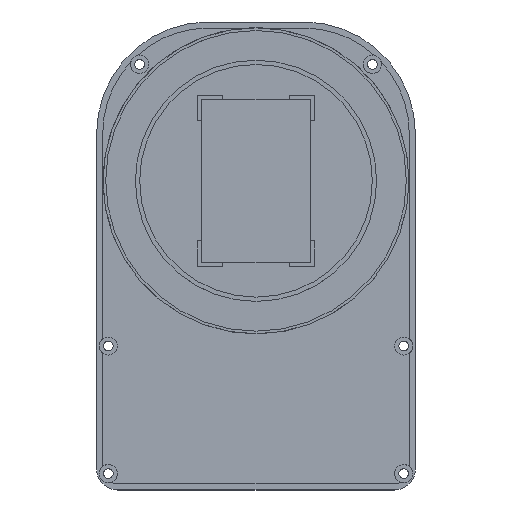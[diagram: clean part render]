
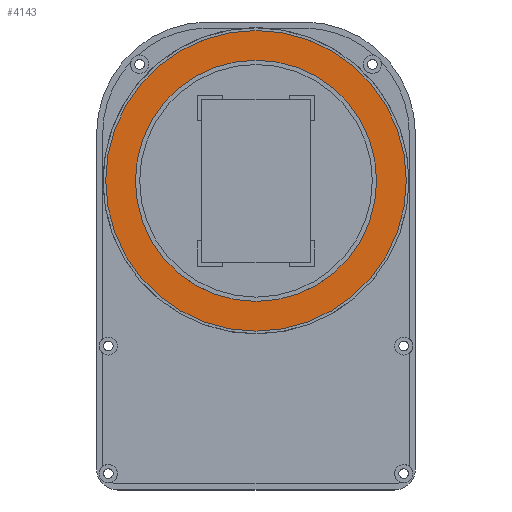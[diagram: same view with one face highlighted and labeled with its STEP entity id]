
A CAD part, top view. The second image highlights one B-rep face of the part: STEP entity #4143.
In plain terms, the highlighted planar face has unit normal (0, 0, 1).
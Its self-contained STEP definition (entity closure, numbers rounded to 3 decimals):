
#3735 = CYLINDRICAL_SURFACE('',#3736,28.3);
#3736 = AXIS2_PLACEMENT_3D('',#3737,#3738,#3739);
#3737 = CARTESIAN_POINT('',(0.,14.15,0.5));
#3738 = DIRECTION('',(0.,0.,1.));
#3739 = DIRECTION('',(1.,0.,-0.));
#4094 = VERTEX_POINT('',#4095);
#4095 = CARTESIAN_POINT('',(28.3,14.15,0.5));
#4116 = EDGE_CURVE('',#4094,#4094,#4117,.T.);
#4117 = SURFACE_CURVE('',#4118,(#4123,#4130),.PCURVE_S1.);
#4118 = CIRCLE('',#4119,28.3);
#4119 = AXIS2_PLACEMENT_3D('',#4120,#4121,#4122);
#4120 = CARTESIAN_POINT('',(0.,14.15,0.5));
#4121 = DIRECTION('',(0.,0.,1.));
#4122 = DIRECTION('',(1.,0.,-0.));
#4123 = PCURVE('',#3735,#4124);
#4124 = DEFINITIONAL_REPRESENTATION('',(#4125),#4129);
#4125 = LINE('',#4126,#4127);
#4126 = CARTESIAN_POINT('',(0.,0.));
#4127 = VECTOR('',#4128,1.);
#4128 = DIRECTION('',(1.,0.));
#4129 = ( GEOMETRIC_REPRESENTATION_CONTEXT(2) 
PARAMETRIC_REPRESENTATION_CONTEXT() REPRESENTATION_CONTEXT('2D SPACE',''
  ) );
#4130 = PCURVE('',#4131,#4136);
#4131 = PLANE('',#4132);
#4132 = AXIS2_PLACEMENT_3D('',#4133,#4134,#4135);
#4133 = CARTESIAN_POINT('',(0.,14.15,0.5));
#4134 = DIRECTION('',(0.,0.,1.));
#4135 = DIRECTION('',(1.,0.,-0.));
#4136 = DEFINITIONAL_REPRESENTATION('',(#4137),#4141);
#4137 = CIRCLE('',#4138,28.3);
#4138 = AXIS2_PLACEMENT_2D('',#4139,#4140);
#4139 = CARTESIAN_POINT('',(0.,0.));
#4140 = DIRECTION('',(1.,0.));
#4141 = ( GEOMETRIC_REPRESENTATION_CONTEXT(2) 
PARAMETRIC_REPRESENTATION_CONTEXT() REPRESENTATION_CONTEXT('2D SPACE',''
  ) );
#4143 = ADVANCED_FACE('',(#4144,#4147),#4131,.T.);
#4144 = FACE_BOUND('',#4145,.T.);
#4145 = EDGE_LOOP('',(#4146));
#4146 = ORIENTED_EDGE('',*,*,#4116,.T.);
#4147 = FACE_BOUND('',#4148,.T.);
#4148 = EDGE_LOOP('',(#4149));
#4149 = ORIENTED_EDGE('',*,*,#4150,.F.);
#4150 = EDGE_CURVE('',#4151,#4151,#4153,.T.);
#4151 = VERTEX_POINT('',#4152);
#4152 = CARTESIAN_POINT('',(22.7,14.15,0.5));
#4153 = SURFACE_CURVE('',#4154,(#4159,#4166),.PCURVE_S1.);
#4154 = CIRCLE('',#4155,22.7);
#4155 = AXIS2_PLACEMENT_3D('',#4156,#4157,#4158);
#4156 = CARTESIAN_POINT('',(0.,14.15,0.5));
#4157 = DIRECTION('',(0.,0.,1.));
#4158 = DIRECTION('',(1.,0.,-0.));
#4159 = PCURVE('',#4131,#4160);
#4160 = DEFINITIONAL_REPRESENTATION('',(#4161),#4165);
#4161 = CIRCLE('',#4162,22.7);
#4162 = AXIS2_PLACEMENT_2D('',#4163,#4164);
#4163 = CARTESIAN_POINT('',(0.,0.));
#4164 = DIRECTION('',(1.,0.));
#4165 = ( GEOMETRIC_REPRESENTATION_CONTEXT(2) 
PARAMETRIC_REPRESENTATION_CONTEXT() REPRESENTATION_CONTEXT('2D SPACE',''
  ) );
#4166 = PCURVE('',#4167,#4172);
#4167 = CYLINDRICAL_SURFACE('',#4168,22.7);
#4168 = AXIS2_PLACEMENT_3D('',#4169,#4170,#4171);
#4169 = CARTESIAN_POINT('',(0.,14.15,0.49));
#4170 = DIRECTION('',(0.,0.,1.));
#4171 = DIRECTION('',(1.,0.,-0.));
#4172 = DEFINITIONAL_REPRESENTATION('',(#4173),#4177);
#4173 = LINE('',#4174,#4175);
#4174 = CARTESIAN_POINT('',(0.,0.01));
#4175 = VECTOR('',#4176,1.);
#4176 = DIRECTION('',(1.,0.));
#4177 = ( GEOMETRIC_REPRESENTATION_CONTEXT(2) 
PARAMETRIC_REPRESENTATION_CONTEXT() REPRESENTATION_CONTEXT('2D SPACE',''
  ) );
